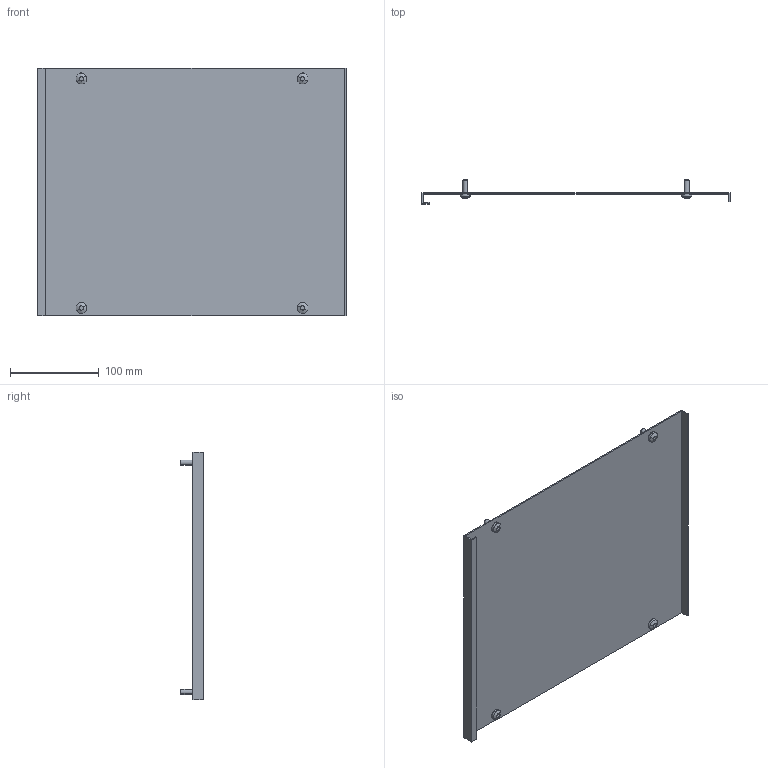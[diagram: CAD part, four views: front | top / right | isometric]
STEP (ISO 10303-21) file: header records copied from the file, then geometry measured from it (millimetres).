
FILE_DESCRIPTION (( 'STEP AP214' ), '1' );
FILE_NAME ('FO-00-PVS-035-040 Ïëàñòðîí ãëóõîé âíóòðåííèé 350õ400.STEP', '2025-09-30T07:38:44', ( '' ), ( '' ), 'SwSTEP 2.0', 'SolidWorks 2023', '' );
FILE_SCHEMA (( 'AUTOMOTIVE_DESIGN' ));
Length unit declared in the file: millimetre
Products named in the file (3): FO-00-PVS-035-040 Пластрон глухой внутренний 350х400; Винт M6x16 035-040 IEK
Assembly tree (3 placements, depth 2):
  FO-00-PVS-035-040 Пластрон глухой внутренний 350х400
    FO-00-PVS-035-040 Пластрон глухой внутренний 350х400
    Винт M6x16 035-040 IEK  x2
Bounding box: 348 x 27 x 279 mm (x, y, z)
Volume: 159363.5 mm3; surface area: 213033.5 mm2
Topology: 5 solids, 5 shells, 150 faces, 392 edges, 256 vertices
Faces by surface type: cylinder 88, plane 42, cone 12, bspline 8
Entity records: 3233 total; most frequent: CARTESIAN_POINT 724, ORIENTED_EDGE 512, DIRECTION 500, EDGE_CURVE 256, AXIS2_PLACEMENT_3D 180, VERTEX_POINT 168, VECTOR 140, LINE 140
